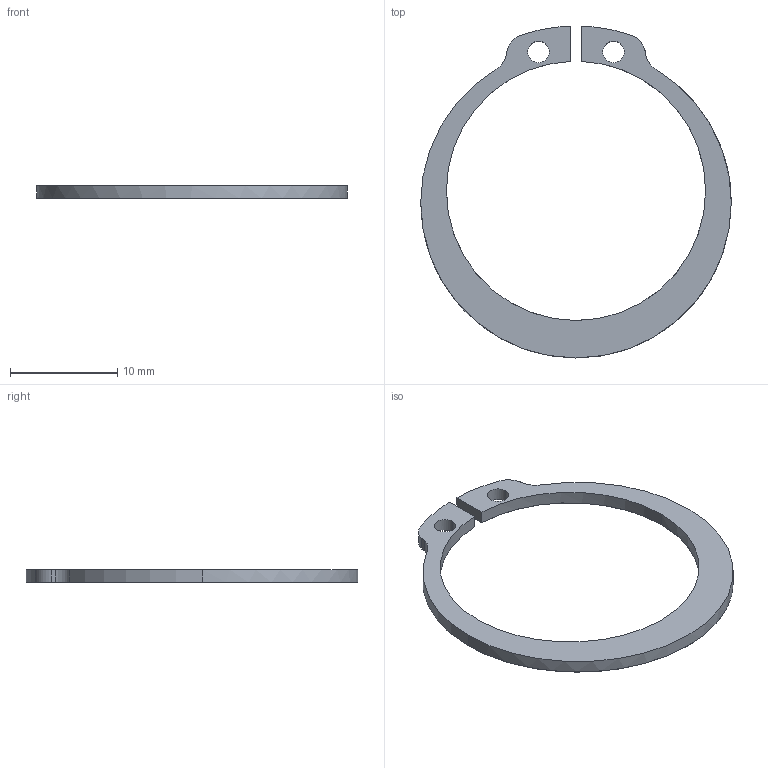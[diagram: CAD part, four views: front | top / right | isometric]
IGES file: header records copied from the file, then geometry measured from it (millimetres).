
Start section: START RECORD GO HERE.
Global section: file name: 553S-R26.igs; native system: DASSAULT SYSTEMES CATIA V5 R20 - www.3ds.com; preprocessor: CATIA Version 5 Release 20 ; author: Utente; organization: NB04-ASUS; date: 20210421.112225; units: millimetre
Bounding box: 29 x 30.99 x 1.2 mm (x, y, z)
Surface area: 661.2 mm2 (no closed solid volume)
Topology: 0 solids, 0 shells, 22 faces, 120 edges, 120 vertices
Faces by surface type: revolution 16, plane 6
